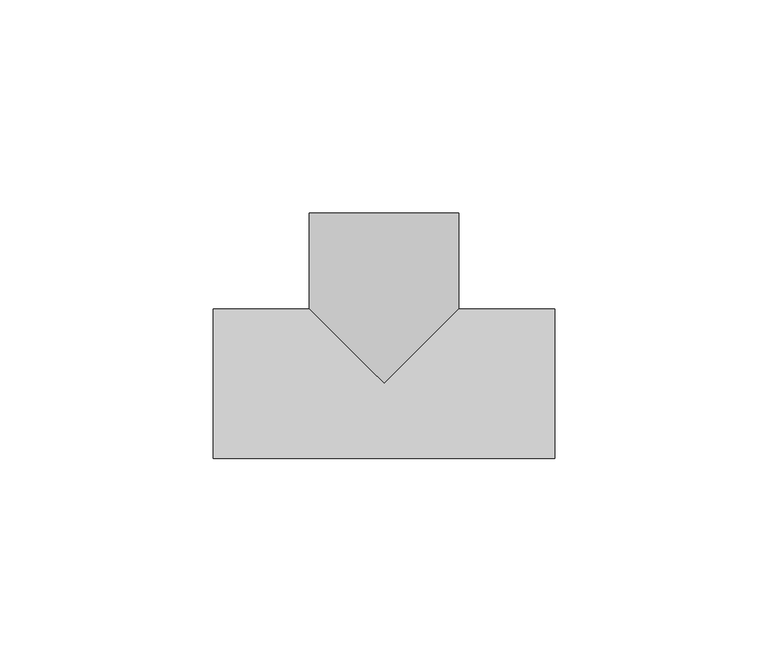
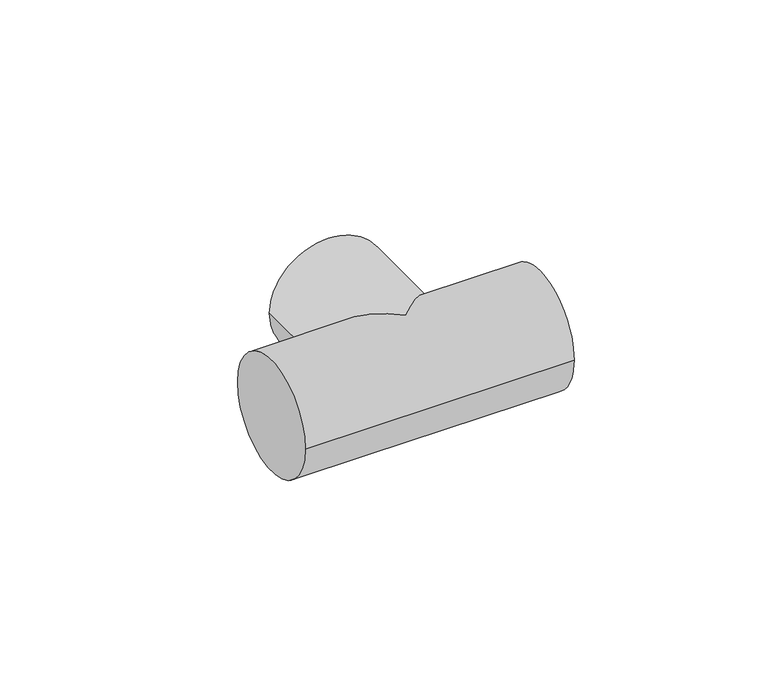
"""IFC4 building model written with IfcOpenShell, lengths in millimetres: cable carrier fitting geometry, Тройник открывающийся TIG : Тройник открывающийся TIG."""

from ifc_helpers import new_model, si_unit, frame, origin, place, context, project, spatial, circle_curve, ellipse_curve, source, transform, mapped, element, save
from ifc_brep_helpers import plane_surface, cylinder_surface, advanced_brep


def cable_carrier_fitting_bc4a73b8(model_context):
    return source(origin(), model_context, "Body", "AdvancedBrep", [
        advanced_brep(
        [(40.0, -17.5, 0.0), (40.0, 17.5, 0.0), (-40.0, -17.5, 0.0), (-40.0, 17.5, 0.0), (-17.5, 17.5, 0.0), (0.0, 0.0, -17.5), (17.5, 17.5, 0.0), (0.0, 0.0, 17.5), (-17.5, 40.0, 0.0), (17.5, 40.0, 0.0)],
        [
            (0, 1, circle_curve(frame((40.0, 0.0, 0.0), z_axis=(1.0, 0.0, 0.0), x_axis=(0.0, 1.0, 0.0)), 17.5)),
            (1, 0, circle_curve(frame((40.0, 0.0, 0.0), z_axis=(1.0, 0.0, 0.0), x_axis=(0.0, 1.0, 0.0)), 17.5)),
            (2, 3, circle_curve(frame((-40.0, 0.0, 0.0), z_axis=(-1.0, 0.0, 0.0), x_axis=(0.0, 1.0, 0.0)), 17.5)),
            (3, 2, circle_curve(frame((-40.0, 0.0, 0.0), z_axis=(-1.0, 0.0, 0.0), x_axis=(0.0, 1.0, 0.0)), 17.5)),
            (0, 2),
            (3, 4),
            (4, 5, ellipse_curve(frame((0.0, 0.0, 0.0), z_axis=(-0.7071067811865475, -0.7071067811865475, 0.0), x_axis=(0.7071067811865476, -0.7071067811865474, 0.0)), 24.7487373, 17.5)),
            (5, 6, ellipse_curve(frame((0.0, 0.0, 0.0), z_axis=(0.7071067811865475, -0.7071067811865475, 0.0), x_axis=(0.7071067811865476, 0.7071067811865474, 0.0)), 24.7487373, 17.5)),
            (6, 1),
            (6, 7, ellipse_curve(frame((0.0, 0.0, 0.0), z_axis=(0.7071067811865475, -0.7071067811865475, 0.0), x_axis=(0.7071067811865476, 0.7071067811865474, 0.0)), 24.7487373, 17.5)),
            (7, 4, ellipse_curve(frame((0.0, 0.0, 0.0), z_axis=(-0.7071067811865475, -0.7071067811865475, 0.0), x_axis=(0.7071067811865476, -0.7071067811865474, 0.0)), 24.7487373, 17.5)),
            (8, 9, circle_curve(frame((0.0, 40.0, 0.0), z_axis=(0.0, 1.0, 0.0), x_axis=(0.9999999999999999, 0.0, 0.0)), 17.5)),
            (9, 8, circle_curve(frame((0.0, 40.0, 0.0), z_axis=(0.0, 1.0, 0.0), x_axis=(0.9999999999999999, 0.0, 0.0)), 17.5)),
            (9, 6),
            (4, 8),
        ],
        [
            plane_surface(frame((40.0, 17.5, 0.0), z_axis=(0.9999999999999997, 0.0, 0.0), x_axis=(0.0, 0.0, 0.9999999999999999))),
            plane_surface(frame((-40.0, 17.5, 0.0), z_axis=(-0.9999999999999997, 0.0, 0.0), x_axis=(0.0, 0.0, -0.9999999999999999))),
            cylinder_surface(frame((-40.0, 0.0, 0.0), z_axis=(0.9999999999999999, 0.0, 0.0), x_axis=(0.0, 1.0, 0.0)), 17.5),
            plane_surface(frame((17.5, 40.0, 0.0), z_axis=(0.0, 0.9999999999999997, 0.0), x_axis=(0.0, 0.0, -0.9999999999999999))),
            cylinder_surface(frame((0.0, 40.0, 0.0), z_axis=(0.0, -0.9999999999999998, 0.0), x_axis=(0.9999999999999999, 0.0, 0.0)), 17.5),
        ],
        [
            (0, [[1, 2]]),
            (1, [[3, 4]]),
            (2, [[-1, 5, -4, 6, 7, 8, 9]]),
            (2, [[-2, -9, 10, 11, -6, -3, -5]]),
            (3, [[12, 13]]),
            (4, [[-13, 14, -8, -7, 15]]),
            (4, [[-12, -15, -11, -10, -14]]),
        ],
    ),
    ])


if __name__ == "__main__":
    model = new_model("IFC4")
    model_context = context("Model", 3, world=origin())
    ifc_project = project(units=[si_unit("LENGTHUNIT", "METRE", prefix="MILLI")], contexts=[model_context])
    site = spatial("IfcSite", under=ifc_project)
    building = spatial("IfcBuilding", under=site)
    placement = place(None, origin())
    cable_carrier_fitting_shape = cable_carrier_fitting_bc4a73b8(model_context)
    element("IfcCableCarrierFitting", 1, ObjectType="Тройник открывающийся TIG : Тройник открывающийся TIG", at=placement, inside=building, context=model_context, shape_type="MappedRepresentation", body=[
        mapped(cable_carrier_fitting_shape, transform((0.0, 0.0, 0.0), x_axis=(1.0, 0.0, 0.0), y_axis=(0.0, 1.0, 0.0), z_axis=(0.0, 0.0, 1.0))),
    ])
    save(model, "model.ifc")
